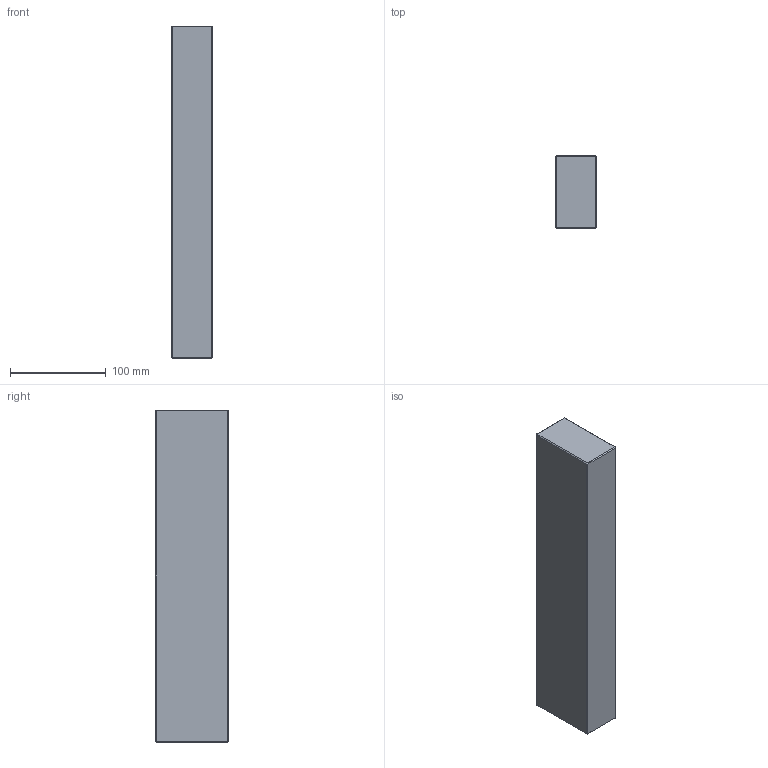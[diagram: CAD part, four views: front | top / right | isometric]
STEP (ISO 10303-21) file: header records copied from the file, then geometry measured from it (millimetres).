
FILE_DESCRIPTION (( 'STEP AP214' ), '1' );
FILE_NAME ('ESP-P-346X346x76.STEP', '2020-04-08T10:55:37', ( 'August' ), ( '' ), 'SwSTEP 2.0', 'SolidWorks 2018', '' );
FILE_SCHEMA (( 'AUTOMOTIVE_DESIGN' ));
Length unit declared in the file: millimetre
Products named in the file (1): ESP-P-346X346x76
Bounding box: 43 x 76 x 346 mm (x, y, z)
Volume: 1129803.3 mm3; surface area: 87791.4 mm2
Topology: 1 solids, 1 shells, 26 faces, 48 edges, 24 vertices
Faces by surface type: plane 26
Entity records: 634 total; most frequent: DIRECTION 102, CARTESIAN_POINT 99, ORIENTED_EDGE 96, VECTOR 48, LINE 48, EDGE_CURVE 48, AXIS2_PLACEMENT_3D 27, ADVANCED_FACE 26
